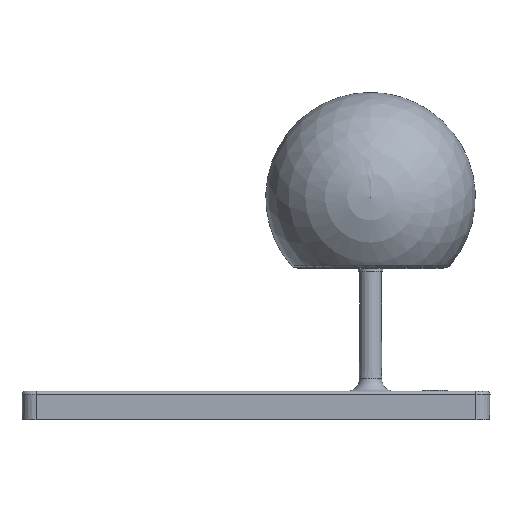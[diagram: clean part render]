
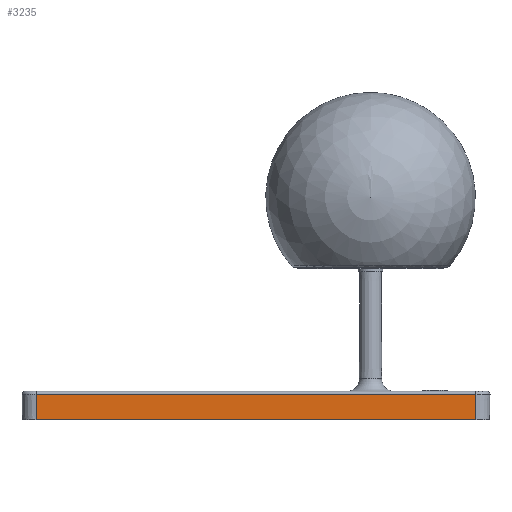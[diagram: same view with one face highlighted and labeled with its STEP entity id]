
A CAD part, left-side view. The second image highlights one B-rep face of the part: STEP entity #3235.
In plain terms, the highlighted planar face has unit normal (-1, 0, -0.018) as drawn and (0, -1, -0.017) by its records, which use the part's own axes.
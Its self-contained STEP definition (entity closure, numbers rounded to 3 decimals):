
#275=PLANE('',#3544);
#448=FACE_OUTER_BOUND('',#647,.T.);
#647=EDGE_LOOP('',(#2989,#2990,#2991,#2992));
#919=LINE('',#6493,#1215);
#944=LINE('',#6678,#1240);
#946=LINE('',#6699,#1242);
#947=LINE('',#6700,#1243);
#1215=VECTOR('',#4345,304.8);
#1240=VECTOR('',#4420,304.8);
#1242=VECTOR('',#4428,304.8);
#1243=VECTOR('',#4429,304.8);
#1653=VERTEX_POINT('',#6481);
#1658=VERTEX_POINT('',#6491);
#1691=VERTEX_POINT('',#6677);
#1692=VERTEX_POINT('',#6698);
#2110=EDGE_CURVE('',#1653,#1658,#919,.T.);
#2159=EDGE_CURVE('',#1658,#1691,#944,.T.);
#2163=EDGE_CURVE('',#1653,#1692,#946,.T.);
#2164=EDGE_CURVE('',#1692,#1691,#947,.T.);
#2989=ORIENTED_EDGE('',*,*,#2163,.F.);
#2990=ORIENTED_EDGE('',*,*,#2110,.T.);
#2991=ORIENTED_EDGE('',*,*,#2159,.T.);
#2992=ORIENTED_EDGE('',*,*,#2164,.F.);
#3235=ADVANCED_FACE('',(#448),#275,.T.);
#3544=AXIS2_PLACEMENT_3D('',#6697,#4426,#4427);
#4345=DIRECTION('',(1.,0.,0.));
#4420=DIRECTION('',(0.,-0.017,1.));
#4426=DIRECTION('center_axis',(0.,-1.,
-0.017));
#4427=DIRECTION('ref_axis',(1.,0.,0.));
#4428=DIRECTION('',(0.,-0.017,1.));
#4429=DIRECTION('',(1.,0.,0.));
#6481=CARTESIAN_POINT('',(-141.724,-72.762,0.));
#6491=CARTESIAN_POINT('',(141.724,-72.762,0.));
#6493=CARTESIAN_POINT('',(-141.724,-72.762,0.));
#6677=CARTESIAN_POINT('',(141.724,-73.044,16.176));
#6678=CARTESIAN_POINT('',(141.724,-72.762,0.));
#6697=CARTESIAN_POINT('Origin',(-141.724,-72.762,0.));
#6698=CARTESIAN_POINT('',(-141.724,-73.044,16.176));
#6699=CARTESIAN_POINT('',(-141.724,-72.762,0.));
#6700=CARTESIAN_POINT('',(-141.724,-73.044,16.176));
